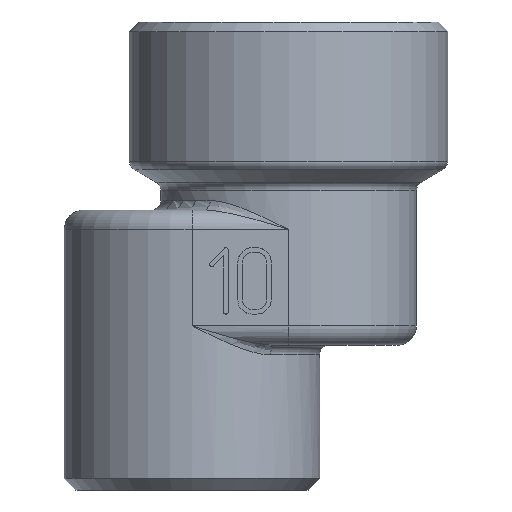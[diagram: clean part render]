
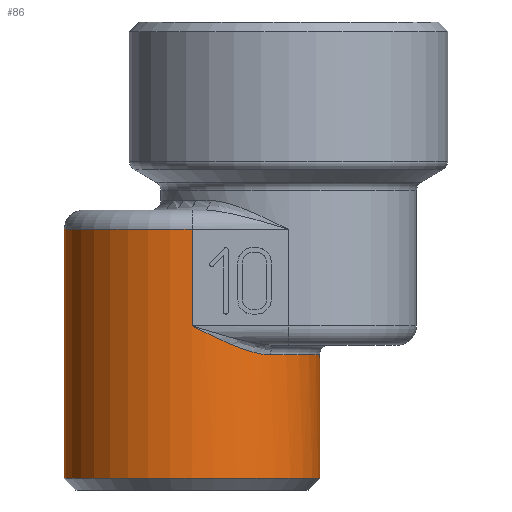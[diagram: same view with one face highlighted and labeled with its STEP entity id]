
A CAD part, left-side view. The second image highlights one B-rep face of the part: STEP entity #86.
In plain terms, the highlighted cylindrical face has radius 13.25 mm (diameter 26.5 mm), a full revolution.
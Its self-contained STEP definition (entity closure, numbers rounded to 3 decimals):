
#86=ADVANCED_FACE('',(#423,#425),#427,.T.);
#423=FACE_BOUND('',#424,.T.);
#424=EDGE_LOOP('',(#1753,#1754,#1755,#1756,#1757,#1758));
#425=FACE_OUTER_BOUND('',#426,.T.);
#426=EDGE_LOOP('',(#1759));
#427=CYLINDRICAL_SURFACE('',#428,13.25);
#428=AXIS2_PLACEMENT_3D('',#429,#430,#431);
#429=CARTESIAN_POINT('',(0.,0.,0.));
#430=DIRECTION('',(0.,0.,1.));
#431=DIRECTION('',(-1.,0.,0.));
#1753=ORIENTED_EDGE('',*,*,#2174,.F.);
#1754=ORIENTED_EDGE('',*,*,#2175,.F.);
#1755=ORIENTED_EDGE('',*,*,#2176,.F.);
#1756=ORIENTED_EDGE('',*,*,#2177,.F.);
#1757=ORIENTED_EDGE('',*,*,#2063,.T.);
#1758=ORIENTED_EDGE('',*,*,#2178,.F.);
#1759=ORIENTED_EDGE('',*,*,#2179,.T.);
#2063=EDGE_CURVE('',#2327,#2324,#2328,.T.);
#2174=EDGE_CURVE('',#2508,#2509,#2510,.T.);
#2175=EDGE_CURVE('',#2511,#2508,#2512,.T.);
#2176=EDGE_CURVE('',#2513,#2511,#2514,.T.);
#2177=EDGE_CURVE('',#2327,#2513,#2515,.F.);
#2178=EDGE_CURVE('',#2509,#2324,#2516,.T.);
#2179=EDGE_CURVE('',#2517,#2517,#2518,.T.);
#2324=VERTEX_POINT('',#2762);
#2327=VERTEX_POINT('',#2767);
#2328=LINE('',#2768,#2769);
#2508=VERTEX_POINT('',#3183);
#2509=VERTEX_POINT('',#3184);
#2510=LINE('',#3185,#3186);
#2511=VERTEX_POINT('',#3188);
#2512=B_SPLINE_CURVE_WITH_KNOTS('',3,
(#3189,#3190,#3191,#3192,#3193,#3194,#3195,#3196,#3197,#3198,#3199,#3200,#3201,#3202,
#3203,#3204),
.UNSPECIFIED.,.F.,.F.,
(4,1,1,1,1,1,1,1,1,1,1,1,1,4),
(0.,0.068,0.127,0.179,0.236,0.298,
0.365,0.45,0.537,0.635,0.724,
0.82,0.91,1.),
.UNSPECIFIED.);
#2513=VERTEX_POINT('',#3205);
#2514=CIRCLE('',#3206,13.25);
#2515=B_SPLINE_CURVE_WITH_KNOTS('',3,
(#3210,#3211,#3212,#3213,#3214,#3215,#3216,#3217,#3218,#3219,#3220,#3221,#3222,#3223,
#3224,#3225),
.UNSPECIFIED.,.F.,.F.,
(4,1,1,1,1,1,1,1,1,1,1,1,1,4),
(0.,0.068,0.127,0.179,0.236,0.298,
0.365,0.45,0.537,0.635,0.724,
0.82,0.91,1.),
.UNSPECIFIED.);
#2516=CIRCLE('',#3226,13.25);
#2517=VERTEX_POINT('',#3230);
#2518=CIRCLE('',#3231,13.25);
#2762=CARTESIAN_POINT('',(-13.25,0.,27.));
#2767=CARTESIAN_POINT('',(-13.25,0.,17.));
#2768=CARTESIAN_POINT('',(-13.25,0.,17.));
#2769=VECTOR('',#2770,1.);
#2770=DIRECTION('',(0.,0.,1.));
#3183=CARTESIAN_POINT('',(13.25,0.,17.));
#3184=CARTESIAN_POINT('',(13.25,0.,27.));
#3185=CARTESIAN_POINT('',(13.25,0.,17.));
#3186=VECTOR('',#3187,1.);
#3187=DIRECTION('',(0.,0.,1.));
#3188=CARTESIAN_POINT('',(10.461,-8.133,14.));
#3189=CARTESIAN_POINT('',(10.461,-8.133,14.));
#3190=CARTESIAN_POINT('',(10.594,-7.961,13.999));
#3191=CARTESIAN_POINT('',(10.833,-7.637,14.02));
#3192=CARTESIAN_POINT('',(11.145,-7.173,14.086));
#3193=CARTESIAN_POINT('',(11.416,-6.732,14.177));
#3194=CARTESIAN_POINT('',(11.672,-6.278,14.292));
#3195=CARTESIAN_POINT('',(11.928,-5.778,14.442));
#3196=CARTESIAN_POINT('',(12.194,-5.198,14.64));
#3197=CARTESIAN_POINT('',(12.452,-4.548,14.888));
#3198=CARTESIAN_POINT('',(12.699,-3.81,15.194));
#3199=CARTESIAN_POINT('',(12.9,-3.058,15.528));
#3200=CARTESIAN_POINT('',(13.061,-2.277,15.891));
#3201=CARTESIAN_POINT('',(13.171,-1.515,16.255));
#3202=CARTESIAN_POINT('',(13.236,-0.75,16.63));
#3203=CARTESIAN_POINT('',(13.25,-0.249,16.877));
#3204=CARTESIAN_POINT('',(13.25,0.,17.));
#3205=CARTESIAN_POINT('',(-10.461,-8.133,14.));
#3206=AXIS2_PLACEMENT_3D('',#3207,#3208,#3209);
#3207=CARTESIAN_POINT('',(0.,0.,14.));
#3208=DIRECTION('',(0.,0.,1.));
#3209=DIRECTION('',(-0.789,-0.614,0.));
#3210=CARTESIAN_POINT('',(-10.461,-8.133,14.));
#3211=CARTESIAN_POINT('',(-10.594,-7.961,13.999));
#3212=CARTESIAN_POINT('',(-10.833,-7.637,14.02));
#3213=CARTESIAN_POINT('',(-11.145,-7.173,14.086));
#3214=CARTESIAN_POINT('',(-11.416,-6.732,14.177));
#3215=CARTESIAN_POINT('',(-11.672,-6.278,14.292));
#3216=CARTESIAN_POINT('',(-11.928,-5.778,14.442));
#3217=CARTESIAN_POINT('',(-12.194,-5.198,14.64));
#3218=CARTESIAN_POINT('',(-12.452,-4.548,14.888));
#3219=CARTESIAN_POINT('',(-12.699,-3.81,15.194));
#3220=CARTESIAN_POINT('',(-12.9,-3.058,15.528));
#3221=CARTESIAN_POINT('',(-13.061,-2.277,15.891));
#3222=CARTESIAN_POINT('',(-13.171,-1.515,16.255));
#3223=CARTESIAN_POINT('',(-13.236,-0.75,16.63));
#3224=CARTESIAN_POINT('',(-13.25,-0.249,16.877));
#3225=CARTESIAN_POINT('',(-13.25,0.,17.));
#3226=AXIS2_PLACEMENT_3D('',#3227,#3228,#3229);
#3227=CARTESIAN_POINT('',(0.,0.,27.));
#3228=DIRECTION('',(0.,0.,1.));
#3229=DIRECTION('',(1.,0.,0.));
#3230=CARTESIAN_POINT('',(-13.25,0.,1.2));
#3231=AXIS2_PLACEMENT_3D('',#3232,#3233,#3234);
#3232=CARTESIAN_POINT('',(0.,0.,1.2));
#3233=DIRECTION('',(0.,0.,1.));
#3234=DIRECTION('',(-1.,0.,0.));
